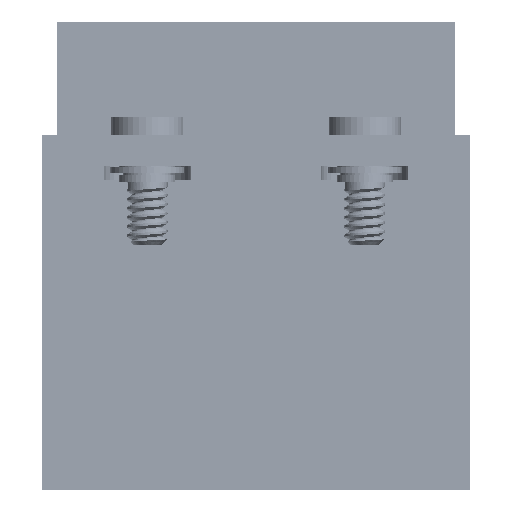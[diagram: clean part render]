
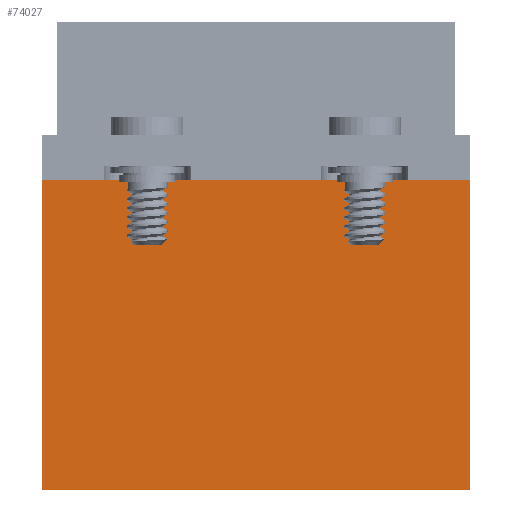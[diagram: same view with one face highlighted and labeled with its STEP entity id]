
A CAD part, front view. The second image highlights one B-rep face of the part: STEP entity #74027.
In plain terms, the highlighted planar face has unit normal (0, -1, 0).
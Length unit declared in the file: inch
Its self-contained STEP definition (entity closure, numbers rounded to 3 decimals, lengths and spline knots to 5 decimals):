
#48436=CARTESIAN_POINT('',(-0.59,-2.6,-0.98507));
#48437=VERTEX_POINT('',#48436);
#48452=CARTESIAN_POINT('',(0.59,-2.6,-0.98507));
#48453=VERTEX_POINT('',#48452);
#48460=CARTESIAN_POINT('',(-0.59,-2.6,-0.98507));
#48461=DIRECTION('',(1.0,0.0,0.0));
#48462=VECTOR('',#48461,1.18);
#48463=LINE('',#48460,#48462);
#48464=EDGE_CURVE('',#48437,#48453,#48463,.T.);
#61385=CARTESIAN_POINT('',(0.59,-2.6,-0.13007));
#61386=VERTEX_POINT('',#61385);
#61393=CARTESIAN_POINT('',(0.59,-2.6,-0.13007));
#61394=DIRECTION('',(0.0,0.0,-1.0));
#61395=VECTOR('',#61394,0.855);
#61396=LINE('',#61393,#61395);
#61397=EDGE_CURVE('',#61386,#48453,#61396,.T.);
#73986=CARTESIAN_POINT('',(-0.59,-2.6,-0.13007));
#73987=VERTEX_POINT('',#73986);
#73988=CARTESIAN_POINT('',(-0.59,-2.6,-0.13007));
#73989=DIRECTION('',(0.0,0.0,-1.0));
#73990=VECTOR('',#73989,0.855);
#73991=LINE('',#73988,#73990);
#73992=EDGE_CURVE('',#73987,#48437,#73991,.T.);
#74011=CARTESIAN_POINT('',(-0.59,-2.6,-0.13007));
#74012=DIRECTION('',(0.0,-1.0,0.0));
#74013=DIRECTION('',(0.0,0.0,1.0));
#74014=AXIS2_PLACEMENT_3D('',#74011,#74012,#74013);
#74015=PLANE('',#74014);
#74016=ORIENTED_EDGE('',*,*,#48464,.T.);
#74017=ORIENTED_EDGE('',*,*,#61397,.F.);
#74018=CARTESIAN_POINT('',(-0.59,-2.6,-0.13007));
#74019=DIRECTION('',(1.0,0.0,0.0));
#74020=VECTOR('',#74019,1.18);
#74021=LINE('',#74018,#74020);
#74022=EDGE_CURVE('',#73987,#61386,#74021,.T.);
#74023=ORIENTED_EDGE('',*,*,#74022,.F.);
#74024=ORIENTED_EDGE('',*,*,#73992,.T.);
#74025=EDGE_LOOP('',(#74016,#74017,#74023,#74024));
#74026=FACE_OUTER_BOUND('',#74025,.T.);
#74027=ADVANCED_FACE('',(#74026),#74015,.T.);
